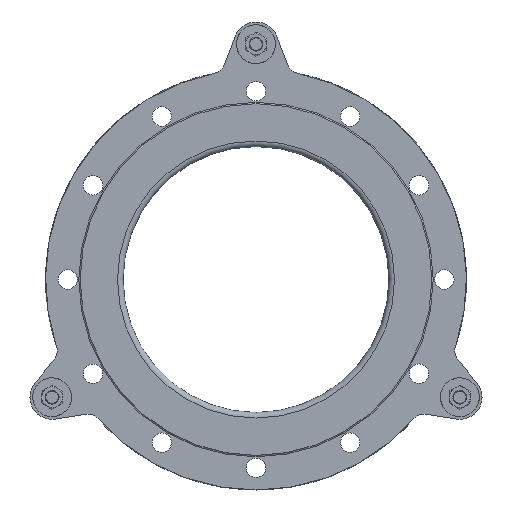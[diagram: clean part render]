
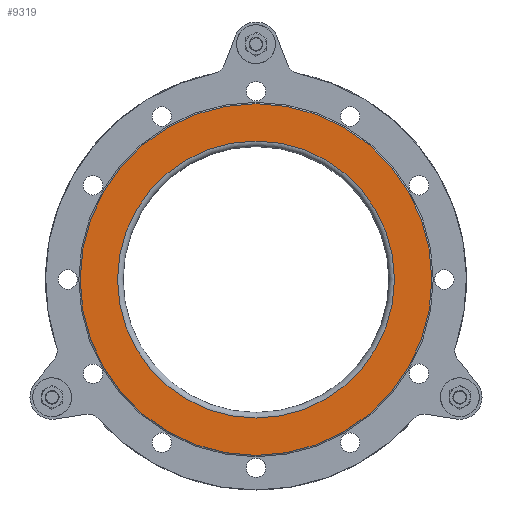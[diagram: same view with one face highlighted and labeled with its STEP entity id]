
A CAD part, front view. The second image highlights one B-rep face of the part: STEP entity #9319.
In plain terms, the highlighted planar face has unit normal (0, -1, 0).
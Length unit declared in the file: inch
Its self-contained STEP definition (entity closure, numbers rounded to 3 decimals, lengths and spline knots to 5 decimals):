
#1168=PLANE('',#10370);
#1948=FACE_BOUND('',#3240,.T.);
#2426=FACE_OUTER_BOUND('',#3239,.T.);
#3239=EDGE_LOOP('',(#7934));
#3240=EDGE_LOOP('',(#7935));
#3941=CIRCLE('',#10369,7.9375);
#3942=CIRCLE('',#10371,6.25);
#4684=VERTEX_POINT('',#16547);
#4685=VERTEX_POINT('',#16550);
#5799=EDGE_CURVE('',#4684,#4684,#3941,.T.);
#5800=EDGE_CURVE('',#4685,#4685,#3942,.T.);
#7934=ORIENTED_EDGE('',*,*,#5799,.T.);
#7935=ORIENTED_EDGE('',*,*,#5800,.F.);
#9319=ADVANCED_FACE('',(#2426,#1948),#1168,.T.);
#10369=AXIS2_PLACEMENT_3D('',#16548,#12590,#12591);
#10370=AXIS2_PLACEMENT_3D('',#16549,#12592,#12593);
#10371=AXIS2_PLACEMENT_3D('',#16551,#12594,#12595);
#12590=DIRECTION('center_axis',(0.,-1.,0.));
#12591=DIRECTION('ref_axis',(-1.,0.,0.));
#12592=DIRECTION('center_axis',(0.,-1.,0.));
#12593=DIRECTION('ref_axis',(-1.,0.,0.));
#12594=DIRECTION('center_axis',(0.,-1.,0.));
#12595=DIRECTION('ref_axis',(-1.,0.,0.));
#16547=CARTESIAN_POINT('',(-1.60846,-6.8125,-7.9375));
#16548=CARTESIAN_POINT('Origin',(-1.60846,-6.8125,0.));
#16549=CARTESIAN_POINT('Origin',(-1.60846,-6.8125,-6.25));
#16550=CARTESIAN_POINT('',(-1.60846,-6.8125,-6.25));
#16551=CARTESIAN_POINT('Origin',(-1.60846,-6.8125,0.));
